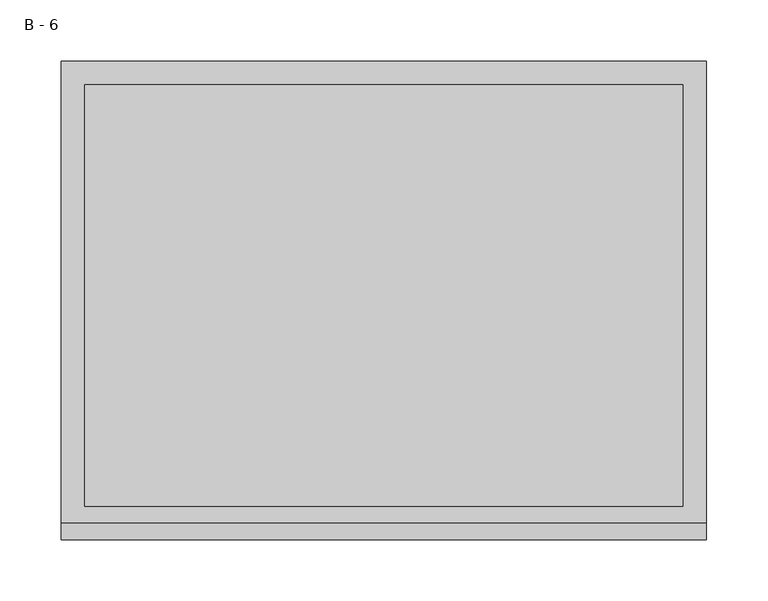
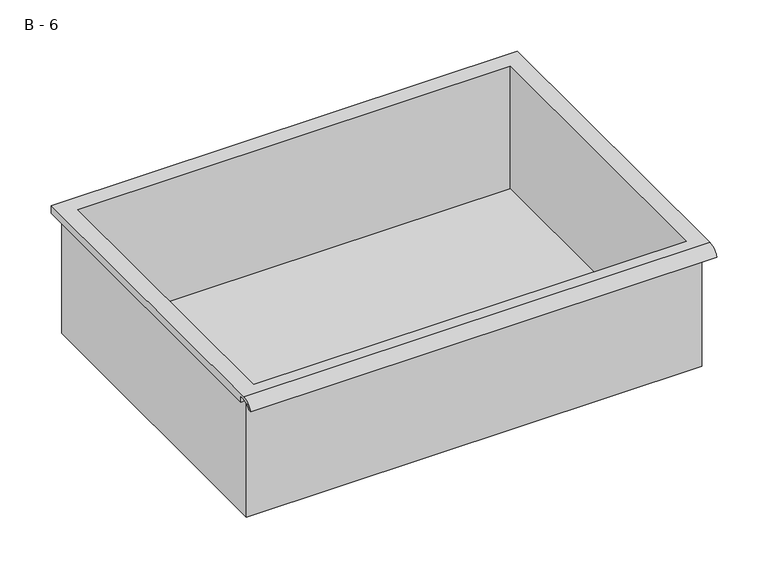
"""IFC4 building model written with IfcOpenShell, lengths in millimetres: furniture geometry, HermanMiller_CoStruc_CO207_Drawer : B - 6."""

from ifc_helpers import new_model, si_unit, frame, origin, place, context, project, spatial, polyline, circle_curve, source, transform, mapped, element, save
from ifc_brep_helpers import plane_surface, cylinder_surface, revolved_surface, advanced_brep


def b_6_eadec2fb(model_context):
    return source(origin(), model_context, "Body", "AdvancedBrep", [
        advanced_brep(
        [(-257.1076517, -176.2125, 549.275), (257.2423483, -176.2125, 549.275), (257.2423483, -176.2125, 688.975), (263.5923483, -176.2125, 688.975), (263.5923483, -176.2125, 695.2821341), (-263.4576517, -176.2125, 695.2821341), (-263.4576517, -176.2125, 688.975), (-257.1076517, -176.2125, 688.975), (257.2423483, 185.7375, 549.275), (-257.1076517, 185.7375, 549.275), (-257.1076517, 185.7375, 688.975), (257.2423483, 185.7375, 688.975), (263.5923483, -181.6070544, 698.5), (263.5923483, 195.2625, 698.5), (-263.4576517, 195.2625, 698.5), (-263.4576517, -181.6070544, 698.5), (244.5423483, -168.275, 698.5), (-244.4076517, -168.275, 698.5), (-244.4076517, 176.2125, 698.5), (244.5423483, 176.2125, 698.5), (263.5923483, -195.2625, 688.975), (263.5923483, -191.8280601, 688.975), (263.5923483, -180.4714815, 695.2821341), (263.5923483, 195.2625, 688.975), (-263.4576517, 195.2625, 688.975), (-263.4576517, -180.4714815, 695.2821341), (-263.4576517, -191.8280601, 688.975), (-263.4576517, -195.2625, 688.975), (-244.4076517, -168.275, 552.3011719), (244.5423483, -168.275, 552.3011719), (244.5423483, 176.2125, 552.3011719), (-244.4076517, 176.2125, 552.3011719)],
        [
            (0, 1),
            (1, 2),
            (2, 3),
            (3, 4),
            (4, 5),
            (5, 6),
            (6, 7),
            (7, 0),
            (8, 9),
            (9, 10),
            (10, 11),
            (11, 8),
            (0, 9),
            (8, 1),
            (11, 2),
            (12, 13),
            (13, 14),
            (14, 15),
            (15, 12),
            (16, 17),
            (17, 18),
            (18, 19),
            (19, 16),
            (7, 10),
            (12, 20, circle_curve(frame((263.5923483, -181.6070544, 683.9489859), z_axis=(1.0, 0.0, 0.0), x_axis=(0.0, 1.0, 0.0)), 14.5510141)),
            (20, 21),
            (21, 22, circle_curve(frame((263.5923483, -181.6070544, 683.9489859), z_axis=(-1.0, 0.0, 0.0), x_axis=(0.0, 1.0, 0.0)), 11.3898979)),
            (22, 4),
            (3, 23),
            (23, 13),
            (14, 24),
            (24, 6),
            (5, 25),
            (25, 26, circle_curve(frame((-263.4576517, -181.6070544, 683.9489859), z_axis=(1.0, 0.0, 0.0), x_axis=(0.0, 1.0, 0.0)), 11.3898979)),
            (26, 27),
            (27, 15, circle_curve(frame((-263.4576517, -181.6070544, 683.9489859), z_axis=(-1.0, 0.0, 0.0), x_axis=(0.0, 1.0, 0.0)), 14.5510141)),
            (27, 20),
            (26, 21),
            (25, 22),
            (24, 23),
            (28, 29),
            (29, 30),
            (30, 31),
            (31, 28),
            (28, 17),
            (16, 29),
            (19, 30),
            (18, 31),
        ],
        [
            plane_surface(frame((257.2423483, -176.2125, 549.275), z_axis=(0.0, -1.0, 0.0), x_axis=(1.0, 0.0, 0.0))),
            plane_surface(frame((257.2423483, 185.7375, 549.275), z_axis=(0.0, 1.0, 0.0), x_axis=(-1.0, 0.0, 0.0))),
            plane_surface(frame((-257.1076517, -176.2125, 549.275), z_axis=(0.0, 0.0, -1.0), x_axis=(0.0, 1.0, 0.0))),
            plane_surface(frame((257.2423483, -176.2125, 549.275), z_axis=(1.0, 0.0, 0.0), x_axis=(0.0, 1.0, 0.0))),
            plane_surface(frame((257.2423483, -176.2125, 698.5), z_axis=(0.0, 0.0, 1.0), x_axis=(0.0, 1.0, 0.0))),
            plane_surface(frame((-257.1076517, -176.2125, 698.5), z_axis=(-1.0, 0.0, 0.0), x_axis=(0.0, 1.0, 0.0))),
            plane_surface(frame((263.5923483, 195.2625, 698.5), z_axis=(1.0, 0.0, 0.0), x_axis=(0.0, -1.0, 0.0))),
            plane_surface(frame((-263.4576517, 195.2625, 698.5), z_axis=(-1.0, 0.0, 0.0), x_axis=(0.0, 1.0, 0.0))),
            cylinder_surface(frame((-263.4576517, -181.6070544, 683.9489859), z_axis=(1.0, 0.0, 0.0), x_axis=(0.0, 1.0, 0.0)), 14.5510141),
            plane_surface(frame((263.5923483, -195.2625, 688.975), z_axis=(0.0, -7.212409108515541e-12, -1.0), x_axis=(-1.0, 0.0, 0.0))),
            revolved_surface(polyline([(-263.4576517, -170.21715650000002, 683.9489859), (263.59234829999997, -170.21715650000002, 683.9489859)]), (-263.4576517, -181.6070544, 683.9489859), (-1.0, 0.0, 0.0)),
            plane_surface(frame((263.5923483, -180.4714815, 695.2821341), z_axis=(0.0, -1.789319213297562e-11, -1.0), x_axis=(-1.0, 0.0, 0.0))),
            plane_surface(frame((263.5923483, -176.2125, 688.975), z_axis=(0.0, 0.0, -1.0), x_axis=(-1.0, 0.0, 0.0))),
            plane_surface(frame((263.5923483, 195.2625, 688.975), z_axis=(0.0, 1.0, 0.0), x_axis=(-1.0, 0.0, 0.0))),
            plane_surface(frame((244.5423483, -168.275, 552.3011719), z_axis=(0.0, 0.0, 1.0), x_axis=(-1.0, 0.0, 0.0))),
            plane_surface(frame((-244.4076517, -168.275, 698.5), z_axis=(0.0, 1.0, 0.0), x_axis=(0.0, 0.0, -1.0))),
            plane_surface(frame((244.5423483, -168.275, 698.5), z_axis=(-1.0, 0.0, 0.0), x_axis=(0.0, 0.0, -1.0))),
            plane_surface(frame((244.5423483, 176.2125, 698.5), z_axis=(0.0, -1.0, 0.0), x_axis=(0.0, 0.0, -1.0))),
            plane_surface(frame((-244.4076517, 176.2125, 698.5), z_axis=(1.0, 0.0, 0.0), x_axis=(0.0, 0.0, -1.0))),
        ],
        [
            (0, [[1, 2, 3, 4, 5, 6, 7, 8]]),
            (1, [[9, 10, 11, 12]]),
            (2, [[-1, 13, -9, 14]]),
            (3, [[-14, -12, 15, -2]]),
            (4, [[16, 17, 18, 19], [20, 21, 22, 23]]),
            (5, [[-13, -8, 24, -10]]),
            (6, [[-16, 25, 26, 27, 28, -4, 29, 30]]),
            (7, [[31, 32, -6, 33, 34, 35, 36, -18]]),
            (8, [[-25, -19, -36, 37]]),
            (9, [[-26, -37, -35, 38]]),
            (10, [[-27, -38, -34, 39]]),
            (11, [[-28, -39, -33, -5]]),
            (12, [[-29, -3, -15, -11, -24, -7, -32, 40]]),
            (13, [[-30, -40, -31, -17]]),
            (14, [[41, 42, 43, 44]]),
            (15, [[-41, 45, -20, 46]]),
            (16, [[-42, -46, -23, 47]]),
            (17, [[-43, -47, -22, 48]]),
            (18, [[-44, -48, -21, -45]]),
        ],
    ),
    ])


if __name__ == "__main__":
    model = new_model("IFC4")
    model_context = context("Model", 3, world=origin())
    ifc_project = project(units=[si_unit("LENGTHUNIT", "METRE", prefix="MILLI")], contexts=[model_context])
    site = spatial("IfcSite", under=ifc_project)
    building = spatial("IfcBuilding", under=site)
    placement = place(None, origin())
    b_6_shape = b_6_eadec2fb(model_context)
    element("IfcFurniture", 1, ObjectType="HermanMiller_CoStruc_CO207_Drawer : B - 6", at=placement, inside=building, context=model_context, shape_type="MappedRepresentation", body=[
        mapped(b_6_shape, transform((0.0, 0.0, 0.0), x_axis=(1.0, 0.0, 0.0), y_axis=(0.0, 1.0, 0.0), z_axis=(0.0, 0.0, 1.0))),
    ])
    save(model, "model.ifc")
